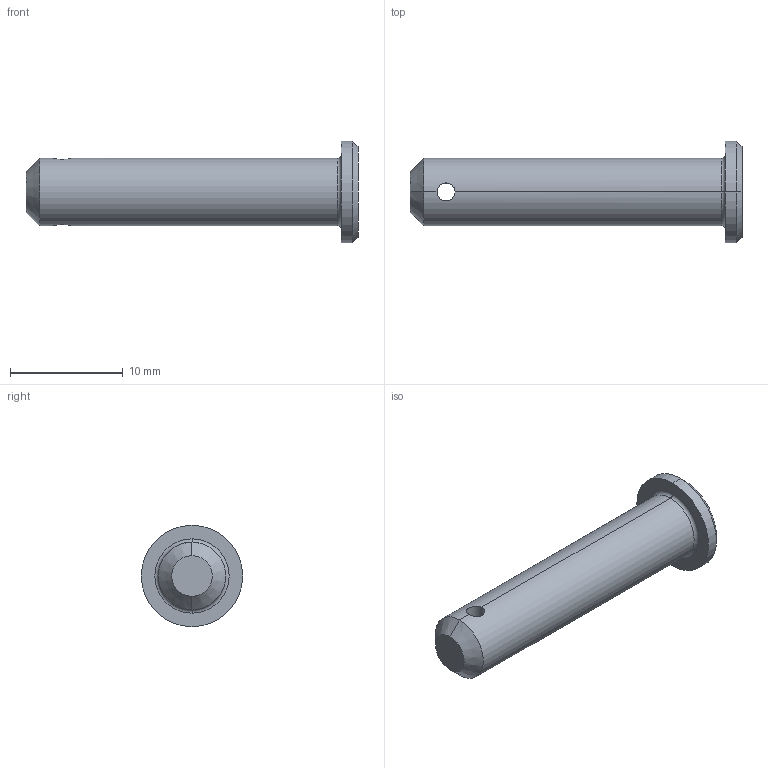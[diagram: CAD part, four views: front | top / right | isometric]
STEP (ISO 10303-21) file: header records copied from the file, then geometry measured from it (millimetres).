
FILE_DESCRIPTION (( 'STEP AP203' ), '1' );
FILE_NAME ('Wiberger-sms2360_6x28.step', '2012-10-09T08:58:20', ( 'Magnus' ), ( 'Wiberger' ), 'SwSTEP 2.0', 'SolidWorks 2011', '' );
FILE_SCHEMA (( 'CONFIG_CONTROL_DESIGN' ));
Length unit declared in the file: millimetre
Products named in the file (1): Wiberger-sms2360_6x28
Bounding box: 29.5 x 9 x 9 mm (x, y, z)
Volume: 860.4 mm3; surface area: 696.9 mm2
Topology: 1 solids, 1 shells, 15 faces, 32 edges, 18 vertices
Faces by surface type: cylinder 6, cone 4, plane 3, torus 2
Entity records: 539 total; most frequent: CARTESIAN_POINT 130, DIRECTION 76, ORIENTED_EDGE 64, EDGE_CURVE 32, AXIS2_PLACEMENT_3D 32, VERTEX_POINT 18, EDGE_LOOP 16, CIRCLE 16
